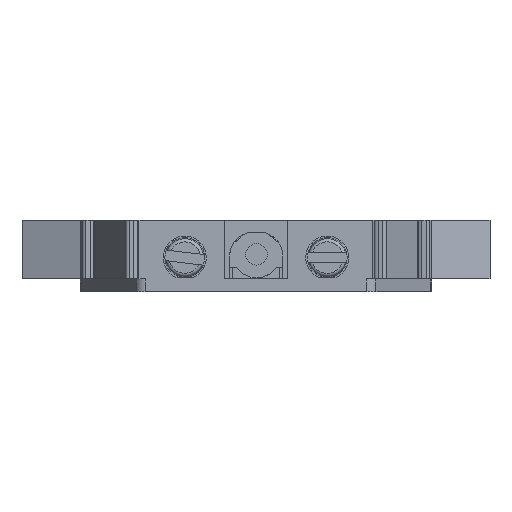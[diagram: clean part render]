
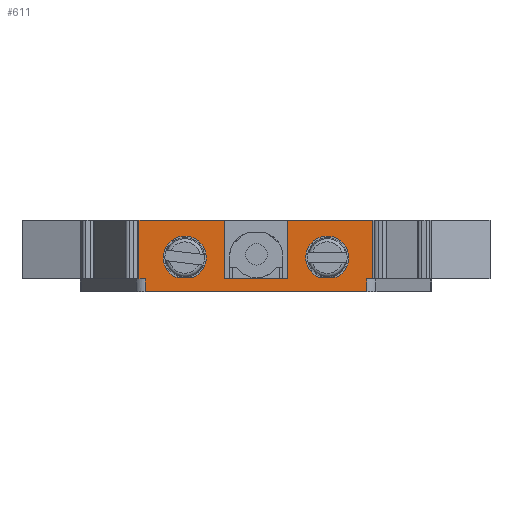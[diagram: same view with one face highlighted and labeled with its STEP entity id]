
A CAD part, front view. The second image highlights one B-rep face of the part: STEP entity #611.
In plain terms, the highlighted planar face has unit normal (0, -1, 0).
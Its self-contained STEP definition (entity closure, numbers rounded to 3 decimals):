
#611=ADVANCED_FACE('',(#21736,#21738,#21740),#21742,.T.);
#21736=FACE_BOUND('',#21737,.T.);
#21737=EDGE_LOOP('',(#38377,#38378,#38379,#38380,#38381,#38382,#38383,#38384,#38385,
#38386,#38387,#38388));
#21738=FACE_BOUND('',#21739,.T.);
#21739=EDGE_LOOP('',(#38389,#38390));
#21740=FACE_BOUND('',#21741,.T.);
#21741=EDGE_LOOP('',(#38391,#38392));
#21742=PLANE('',#21743);
#21743=AXIS2_PLACEMENT_3D('',#21744,#21745,#21746);
#21744=CARTESIAN_POINT('',(-11.,-36.,0.));
#21745=DIRECTION('',(0.,-1.,0.));
#21746=DIRECTION('',(1.,0.,0.));
#38377=ORIENTED_EDGE('',*,*,#52024,.T.);
#38378=ORIENTED_EDGE('',*,*,#52025,.T.);
#38379=ORIENTED_EDGE('',*,*,#52026,.F.);
#38380=ORIENTED_EDGE('',*,*,#52027,.F.);
#38381=ORIENTED_EDGE('',*,*,#52028,.T.);
#38382=ORIENTED_EDGE('',*,*,#52029,.T.);
#38383=ORIENTED_EDGE('',*,*,#52030,.F.);
#38384=ORIENTED_EDGE('',*,*,#52031,.F.);
#38385=ORIENTED_EDGE('',*,*,#52032,.T.);
#38386=ORIENTED_EDGE('',*,*,#52033,.T.);
#38387=ORIENTED_EDGE('',*,*,#52034,.F.);
#38388=ORIENTED_EDGE('',*,*,#52035,.F.);
#38389=ORIENTED_EDGE('',*,*,#52036,.T.);
#38390=ORIENTED_EDGE('',*,*,#52037,.T.);
#38391=ORIENTED_EDGE('',*,*,#52023,.T.);
#38392=ORIENTED_EDGE('',*,*,#51860,.T.);
#51860=EDGE_CURVE('',#58834,#58832,#58835,.F.);
#52023=EDGE_CURVE('',#58832,#58834,#59102,.F.);
#52024=EDGE_CURVE('',#59103,#59104,#59105,.T.);
#52025=EDGE_CURVE('',#59104,#59106,#59107,.T.);
#52026=EDGE_CURVE('',#59108,#59106,#59109,.T.);
#52027=EDGE_CURVE('',#59110,#59108,#59111,.T.);
#52028=EDGE_CURVE('',#59110,#59112,#59113,.T.);
#52029=EDGE_CURVE('',#59112,#59114,#59115,.T.);
#52030=EDGE_CURVE('',#59116,#59114,#59117,.T.);
#52031=EDGE_CURVE('',#59118,#59116,#59119,.T.);
#52032=EDGE_CURVE('',#59118,#59120,#59121,.T.);
#52033=EDGE_CURVE('',#59120,#59122,#59123,.T.);
#52034=EDGE_CURVE('',#59124,#59122,#59125,.T.);
#52035=EDGE_CURVE('',#59103,#59124,#59126,.T.);
#52036=EDGE_CURVE('',#59127,#59128,#59129,.F.);
#52037=EDGE_CURVE('',#59128,#59127,#59130,.F.);
#58832=VERTEX_POINT('',#70604);
#58834=VERTEX_POINT('',#70608);
#58835=LINE('',#70609,#70610);
#59102=CIRCLE('',#71433,2.025);
#59103=VERTEX_POINT('',#71437);
#59104=VERTEX_POINT('',#71438);
#59105=LINE('',#71439,#71440);
#59106=VERTEX_POINT('',#71442);
#59107=LINE('',#71443,#71444);
#59108=VERTEX_POINT('',#71446);
#59109=LINE('',#71447,#71448);
#59110=VERTEX_POINT('',#71450);
#59111=LINE('',#71451,#71452);
#59112=VERTEX_POINT('',#71454);
#59113=LINE('',#71455,#71456);
#59114=VERTEX_POINT('',#71458);
#59115=LINE('',#71459,#71460);
#59116=VERTEX_POINT('',#71462);
#59117=LINE('',#71463,#71464);
#59118=VERTEX_POINT('',#71466);
#59119=LINE('',#71467,#71468);
#59120=VERTEX_POINT('',#71470);
#59121=LINE('',#71471,#71472);
#59122=VERTEX_POINT('',#71474);
#59123=LINE('',#71475,#71476);
#59124=VERTEX_POINT('',#71478);
#59125=LINE('',#71479,#71480);
#59126=LINE('',#71482,#71483);
#59127=VERTEX_POINT('',#71485);
#59128=VERTEX_POINT('',#71486);
#59129=CIRCLE('',#71487,2.025);
#59130=LINE('',#71491,#71492);
#70604=CARTESIAN_POINT('',(5.877,-36.,0.15));
#70608=CARTESIAN_POINT('',(7.523,-36.,0.15));
#70609=CARTESIAN_POINT('',(5.877,-36.,0.15));
#70610=VECTOR('',#70611,1.);
#70611=DIRECTION('',(1.,0.,0.));
#71433=AXIS2_PLACEMENT_3D('',#71434,#71435,#71436);
#71434=CARTESIAN_POINT('',(6.7,-36.,2.));
#71435=DIRECTION('',(0.,-1.,0.));
#71436=DIRECTION('',(0.407,0.,-0.914));
#71437=CARTESIAN_POINT('',(-11.,-36.,0.));
#71438=CARTESIAN_POINT('',(-10.398,-36.,0.));
#71439=CARTESIAN_POINT('',(-11.,-36.,0.));
#71440=VECTOR('',#71441,1.);
#71441=DIRECTION('',(1.,0.,0.));
#71442=CARTESIAN_POINT('',(-10.398,-36.,-1.2));
#71443=CARTESIAN_POINT('',(-10.398,-36.,0.));
#71444=VECTOR('',#71445,1.);
#71445=DIRECTION('',(0.,0.,-1.));
#71446=CARTESIAN_POINT('',(10.398,-36.,-1.2));
#71447=CARTESIAN_POINT('',(10.398,-36.,-1.2));
#71448=VECTOR('',#71449,1.);
#71449=DIRECTION('',(-1.,0.,0.));
#71450=CARTESIAN_POINT('',(10.398,-36.,0.));
#71451=CARTESIAN_POINT('',(10.398,-36.,0.));
#71452=VECTOR('',#71453,1.);
#71453=DIRECTION('',(0.,0.,-1.));
#71454=CARTESIAN_POINT('',(11.,-36.,0.));
#71455=CARTESIAN_POINT('',(10.398,-36.,0.));
#71456=VECTOR('',#71457,1.);
#71457=DIRECTION('',(1.,0.,0.));
#71458=CARTESIAN_POINT('',(11.,-36.,5.5));
#71459=CARTESIAN_POINT('',(11.,-36.,0.));
#71460=VECTOR('',#71461,1.);
#71461=DIRECTION('',(0.,0.,1.));
#71462=CARTESIAN_POINT('',(3.,-36.,5.5));
#71463=CARTESIAN_POINT('',(3.,-36.,5.5));
#71464=VECTOR('',#71465,1.);
#71465=DIRECTION('',(1.,0.,0.));
#71466=CARTESIAN_POINT('',(3.,-36.,0.));
#71467=CARTESIAN_POINT('',(3.,-36.,0.));
#71468=VECTOR('',#71469,1.);
#71469=DIRECTION('',(0.,0.,1.));
#71470=CARTESIAN_POINT('',(-3.,-36.,0.));
#71471=CARTESIAN_POINT('',(3.,-36.,0.));
#71472=VECTOR('',#71473,1.);
#71473=DIRECTION('',(-1.,0.,0.));
#71474=CARTESIAN_POINT('',(-3.,-36.,5.5));
#71475=CARTESIAN_POINT('',(-3.,-36.,0.));
#71476=VECTOR('',#71477,1.);
#71477=DIRECTION('',(0.,0.,1.));
#71478=CARTESIAN_POINT('',(-11.,-36.,5.5));
#71479=CARTESIAN_POINT('',(-11.,-36.,5.5));
#71480=VECTOR('',#71481,1.);
#71481=DIRECTION('',(1.,0.,0.));
#71482=CARTESIAN_POINT('',(-11.,-36.,0.));
#71483=VECTOR('',#71484,1.);
#71484=DIRECTION('',(0.,0.,1.));
#71485=CARTESIAN_POINT('',(-7.523,-36.,0.15));
#71486=CARTESIAN_POINT('',(-5.877,-36.,0.15));
#71487=AXIS2_PLACEMENT_3D('',#71488,#71489,#71490);
#71488=CARTESIAN_POINT('',(-6.7,-36.,2.));
#71489=DIRECTION('',(0.,-1.,0.));
#71490=DIRECTION('',(0.407,0.,-0.914));
#71491=CARTESIAN_POINT('',(-7.523,-36.,0.15));
#71492=VECTOR('',#71493,1.);
#71493=DIRECTION('',(1.,0.,0.));
